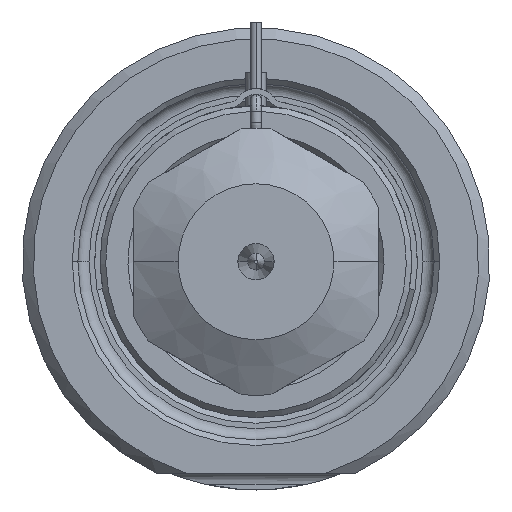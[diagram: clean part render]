
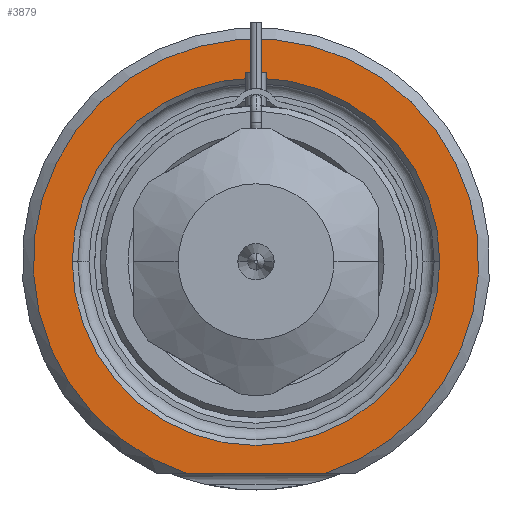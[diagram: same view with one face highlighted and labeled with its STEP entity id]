
A CAD part, front view. The second image highlights one B-rep face of the part: STEP entity #3879.
In plain terms, the highlighted planar face has unit normal (0, -1, 0).
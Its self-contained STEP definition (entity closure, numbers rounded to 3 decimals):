
#1=DIRECTION('',(1.,0.,0.));
#2=VECTOR('',#1,12.49);
#3=CARTESIAN_POINT('',(-6.245,0.,-19.));
#4=LINE('',#3,#2);
#5=CARTESIAN_POINT('',(0.,0.,0.));
#6=DIRECTION('',(0.,1.,0.));
#7=DIRECTION('',(-1.,0.,0.));
#8=AXIS2_PLACEMENT_3D('',#5,#6,#7);
#10=CARTESIAN_POINT('',(0.,0.,0.));
#11=DIRECTION('',(0.,1.,0.));
#12=DIRECTION('',(1.,0.,0.));
#13=AXIS2_PLACEMENT_3D('',#10,#11,#12);
#119=CARTESIAN_POINT('',(0.,0.,0.));
#120=DIRECTION('',(0.,-1.,0.));
#121=DIRECTION('',(0.312,0.,-0.95));
#122=AXIS2_PLACEMENT_3D('',#119,#120,#121);
#3251=CARTESIAN_POINT('',(-16.5,0.,0.));
#3252=CARTESIAN_POINT('',(16.5,0.,0.));
#3253=VERTEX_POINT('',#3251);
#3254=VERTEX_POINT('',#3252);
#3305=CARTESIAN_POINT('',(-6.245,0.,-19.));
#3306=CARTESIAN_POINT('',(6.245,0.,-19.));
#3307=VERTEX_POINT('',#3305);
#3308=VERTEX_POINT('',#3306);
#3862=CARTESIAN_POINT('',(0.,0.,0.));
#3863=DIRECTION('',(0.,-1.,0.));
#3864=DIRECTION('',(1.,0.,0.));
#3865=AXIS2_PLACEMENT_3D('',#3862,#3863,#3864);
#3866=PLANE('',#3865);
#3868=ORIENTED_EDGE('',*,*,#3867,.F.);
#3870=ORIENTED_EDGE('',*,*,#3869,.F.);
#3871=EDGE_LOOP('',(#3868,#3870));
#3872=FACE_OUTER_BOUND('',#3871,.F.);
#3874=ORIENTED_EDGE('',*,*,#3873,.F.);
#3876=ORIENTED_EDGE('',*,*,#3875,.F.);
#3877=EDGE_LOOP('',(#3874,#3876));
#3878=FACE_BOUND('',#3877,.F.);
#3879=ADVANCED_FACE('',(#3872,#3878),#3866,.T.);
#9=CIRCLE('',#8,16.5);
#14=CIRCLE('',#13,16.5);
#123=CIRCLE('',#122,20.);
#3867=EDGE_CURVE('',#3307,#3308,#4,.T.);
#3869=EDGE_CURVE('',#3308,#3307,#123,.T.);
#3873=EDGE_CURVE('',#3253,#3254,#9,.T.);
#3875=EDGE_CURVE('',#3254,#3253,#14,.T.);
